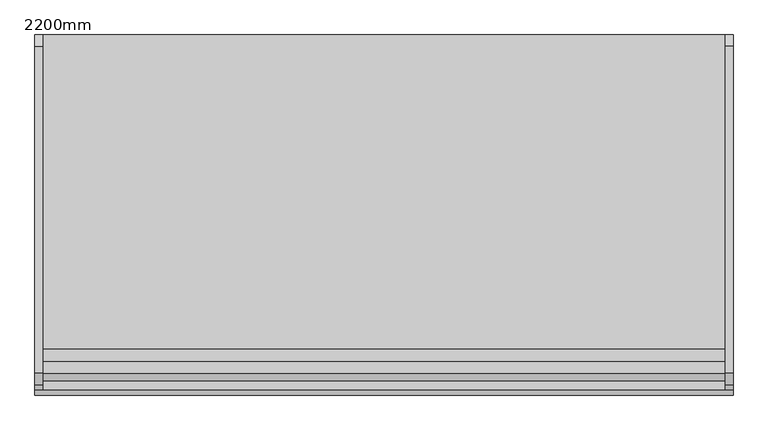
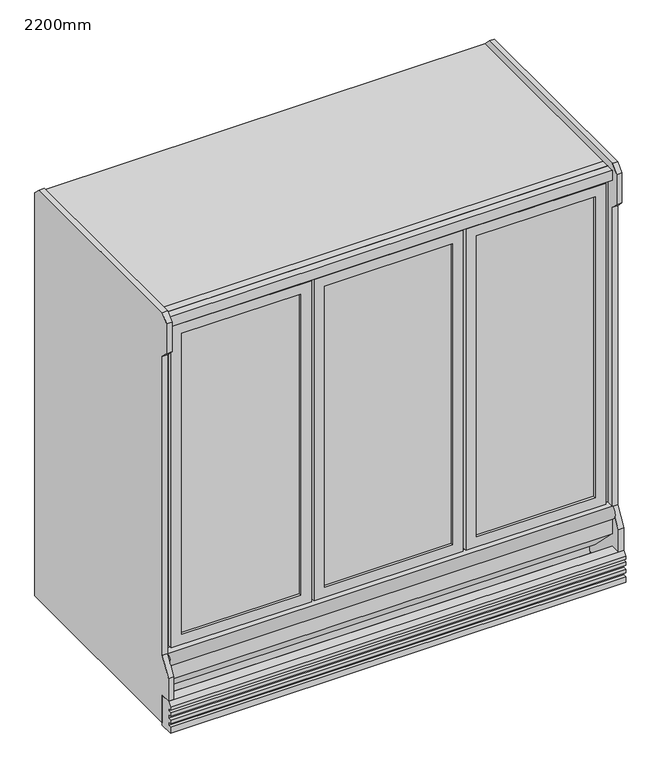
"""IFC4 building model written with IfcOpenShell, lengths in millimetres: proxy geometry, Congélateur - Vertical trois portes : 2200mm."""

from ifc_helpers import new_model, si_unit, point, frame, frame_2d, origin, origin_with_axes, place, context, project, spatial, polyline, circle_curve, trimmed, segment, composite_curve, outline, extrude, source, transform, mapped, element, save


def proxy_2200mm_2b634e71(model_context):
    return source(origin(), model_context, "Body", "SweptSolid", [
        extrude(outline(polyline([(901.7, 2032.0), (914.4, 2032.0), (914.4, 304.8), (901.7, 304.8), (901.7, 520.7), (795.3138575, 520.7), (776.2638575, 539.75), (402.1549695, 539.75), (393.2718086, 558.8), (901.7, 558.8), (901.7, 812.8), (790.5820534, 812.8), (771.5320534, 831.85), (402.1549695, 831.85), (393.2718086, 850.9), (901.7, 850.9), (901.7, 1104.9), (785.8502493, 1104.9), (766.8002493, 1123.95), (313.6831609, 1123.95), (304.8, 1143.0), (901.7, 1143.0), (901.7, 1397.0), (790.5820534, 1397.0), (771.5320534, 1416.05), (313.6831609, 1416.05), (304.8, 1435.1), (901.7, 1435.1), (901.7, 1689.1), (785.8502493, 1689.1), (766.8002493, 1708.15), (317.5, 1708.15), (304.8, 1727.2), (901.7, 1727.2), (901.7, 2032.0)])), frame((-1293.6395833, 0.0, 0.0), z_axis=(1.0, 0.0, 0.0), x_axis=(0.0, 1.0, 0.0)), (0.0, 0.0, 1.0), 12.7),
        extrude(outline(polyline([(-655.55625, 25.4), (-1230.1395833, 25.4), (-1230.1395833, 31.75), (-655.55625, 31.75), (-655.55625, 25.4)])), frame((0.0, 0.0, 419.1), z_axis=(0.0, 0.0, 1.0), x_axis=(1.0, 0.0, 0.0)), (0.0, 0.0, 1.0), 1536.7),
        extrude(outline(polyline([(2006.6, -1280.9395833), (368.3, -1280.9395833), (368.3, -604.75625), (2006.6, -604.75625), (2006.6, -1280.9395833)]), holes=[polyline([(1955.8, -1230.1395833), (1955.8, -655.55625), (419.1, -655.55625), (419.1, -1230.1395833), (1955.8, -1230.1395833)])]), frame((0.0, 12.7, 0.0), z_axis=(0.0, 1.0, 0.0), x_axis=(0.0, 0.0, 1.0)), (0.0, 0.0, 1.0), 25.4),
        extrude(outline(polyline([(-1344.4395833, 25.4), (-1963.4729167, 25.4), (-1963.4729167, 31.75), (-1344.4395833, 31.75), (-1344.4395833, 25.4)])), frame((0.0, 0.0, 419.1), z_axis=(0.0, 0.0, 1.0), x_axis=(1.0, 0.0, 0.0)), (0.0, 0.0, 1.0), 1536.7),
        extrude(outline(polyline([(2006.6, -2014.2729167), (368.3, -2014.2729167), (368.3, -1293.6395833), (2006.6, -1293.6395833), (2006.6, -2014.2729167)]), holes=[polyline([(1955.8, -1963.4729167), (1955.8, -1344.4395833), (419.1, -1344.4395833), (419.1, -1963.4729167), (1955.8, -1963.4729167)])]), frame((0.0, 12.7, 0.0), z_axis=(0.0, 1.0, 0.0), x_axis=(0.0, 0.0, 1.0)), (0.0, 0.0, 1.0), 25.4),
        extrude(outline(polyline([(-2077.7729167, 25.4), (-2652.35625, 25.4), (-2652.35625, 31.75), (-2077.7729167, 31.75), (-2077.7729167, 25.4)])), frame((0.0, 0.0, 419.1), z_axis=(0.0, 0.0, 1.0), x_axis=(1.0, 0.0, 0.0)), (0.0, 0.0, 1.0), 1536.7),
        extrude(outline(polyline([(2006.6, -2026.9729167), (2006.6, -2703.15625), (368.3, -2703.15625), (368.3, -2026.9729167), (2006.6, -2026.9729167)]), holes=[polyline([(1955.8, -2077.7729167), (419.1, -2077.7729167), (419.1, -2652.35625), (1955.8, -2652.35625), (1955.8, -2077.7729167)])]), frame((0.0, 12.7, 0.0), z_axis=(0.0, 1.0, 0.0), x_axis=(0.0, 0.0, 1.0)), (0.0, 0.0, 1.0), 25.4),
        extrude(outline(polyline([(2070.1, -579.35625), (2070.1, -2728.55625), (304.8, -2728.55625), (304.8, -579.35625), (2070.1, -579.35625)]), holes=[polyline([(1993.9, -2039.6729167), (381.0, -2039.6729167), (381.0, -2690.45625), (1993.9, -2690.45625), (1993.9, -2039.6729167)]), polyline([(1993.9, -1306.3395833), (381.0, -1306.3395833), (381.0, -2001.5729167), (1993.9, -2001.5729167), (1993.9, -1306.3395833)]), polyline([(381.0, -1268.2395833), (1993.9, -1268.2395833), (1993.9, -617.45625), (381.0, -617.45625), (381.0, -1268.2395833)])]), frame((0.0, 38.1, 0.0), z_axis=(0.0, 1.0, 0.0), x_axis=(0.0, 0.0, 1.0)), (0.0, 0.0, 1.0), 38.1),
        extrude(outline(composite_curve([segment(trimmed(circle_curve(frame_2d((9.5885861, 324.3228586)), 32.7139199), [point((0.0, 293.0457172))], [point((0.0, 355.6))], False, "CARTESIAN"), True, "CONTINUOUS"), segment(polyline([(0.0, 355.6), (0.0, 293.0457172)]), True, "CONTINUOUS")], self_intersect=False)), frame((-2728.55625, 0.0, 0.0), z_axis=(1.0, 0.0, 0.0), x_axis=(0.0, 1.0, 0.0)), (0.0, 0.0, 1.0), 2149.2),
        extrude(outline(polyline([(-50.8, 152.4), (0.0, 152.4), (0.0, 0.0), (-67.5825973, 0.0), (-67.5825973, 28.6219057), (-50.8, 28.6219057), (-50.8, 47.6719057), (-67.5825973, 47.6719057), (-67.5825973, 66.7219057), (-50.8, 66.7219057), (-50.8, 85.7719057), (-67.5825973, 85.7719057), (-67.5825973, 104.8219057), (-50.8, 104.8219057), (-50.8, 117.5219057), (-67.5825973, 117.5219057), (-67.5825973, 131.7872166), (-50.8, 152.4)])), frame((-2753.95625, 0.0, 0.0), z_axis=(1.0, 0.0, 0.0), x_axis=(0.0, 1.0, 0.0)), (0.0, 0.0, 1.0), 2200.0),
        extrude(outline(polyline([(1030.8789755, 2106.0210245), (1066.8, 2070.1), (1066.8, 12.7), (0.0, 12.7), (0.0, 152.4), (-50.8, 152.4), (-50.8, 267.611819), (0.0, 355.6), (0.0, 1881.7789755), (-35.9210245, 1917.7), (-35.9210245, 2070.1), (0.0, 2106.0210245), (1030.8789755, 2106.0210245)])), frame((-579.35625, 0.0, 0.0), z_axis=(1.0, 0.0, 0.0), x_axis=(0.0, 1.0, 0.0)), (0.0, 0.0, 1.0), 25.4),
        extrude(outline(polyline([(1030.8789755, 2106.0210245), (1066.8, 2070.1), (1066.8, 12.7), (0.0, 12.7), (0.0, 152.4), (-50.8, 152.4), (-50.8, 267.611819), (0.0, 355.6), (0.0, 1881.7789755), (-35.9210245, 1917.7), (-35.9210245, 2070.1), (0.0, 2106.0210245), (1030.8789755, 2106.0210245)])), frame((-2753.95625, 0.0, 0.0), z_axis=(1.0, 0.0, 0.0), x_axis=(0.0, 1.0, 0.0)), (0.0, 0.0, 1.0), 25.4),
        extrude(outline(polyline([(-2715.85625, 292.1), (-2715.85625, 901.7), (-592.05625, 901.7), (-592.05625, 292.1), (-2715.85625, 292.1)])), frame((0.0, 0.0, 1727.2), z_axis=(0.0, 0.0, 1.0), x_axis=(1.0, 0.0, 0.0)), (0.0, 0.0, 1.0), 9.525),
        extrude(outline(polyline([(-2715.85625, 292.1), (-2715.85625, 901.7), (-592.05625, 901.7), (-592.05625, 292.1), (-2715.85625, 292.1)])), frame((0.0, 0.0, 1435.1), z_axis=(0.0, 0.0, 1.0), x_axis=(1.0, 0.0, 0.0)), (0.0, 0.0, 1.0), 9.525),
        extrude(outline(polyline([(-2715.85625, 292.1), (-2715.85625, 901.7), (-592.05625, 901.7), (-592.05625, 292.1), (-2715.85625, 292.1)])), frame((0.0, 0.0, 1143.0), z_axis=(0.0, 0.0, 1.0), x_axis=(1.0, 0.0, 0.0)), (0.0, 0.0, 1.0), 9.525),
        extrude(outline(polyline([(-2715.85625, 292.1), (-2715.85625, 901.7), (-592.05625, 901.7), (-592.05625, 292.1), (-2715.85625, 292.1)])), frame((0.0, 0.0, 850.9), z_axis=(0.0, 0.0, 1.0), x_axis=(1.0, 0.0, 0.0)), (0.0, 0.0, 1.0), 9.525),
        extrude(outline(polyline([(-2715.85625, 292.1), (-2715.85625, 901.7), (-592.05625, 901.7), (-592.05625, 292.1), (-2715.85625, 292.1)])), frame((0.0, 0.0, 558.8), z_axis=(0.0, 0.0, 1.0), x_axis=(1.0, 0.0, 0.0)), (0.0, 0.0, 1.0), 9.525),
        extrude(outline(polyline([(901.7, 2032.0), (914.4, 2032.0), (914.4, 304.8), (901.7, 304.8), (901.7, 520.7), (795.3138575, 520.7), (776.2638575, 539.75), (402.1549695, 539.75), (393.2718086, 558.8), (901.7, 558.8), (901.7, 812.8), (790.5820534, 812.8), (771.5320534, 831.85), (402.1549695, 831.85), (393.2718086, 850.9), (901.7, 850.9), (901.7, 1104.9), (785.8502493, 1104.9), (766.8002493, 1123.95), (313.6831609, 1123.95), (304.8, 1143.0), (901.7, 1143.0), (901.7, 1397.0), (790.5820534, 1397.0), (771.5320534, 1416.05), (313.6831609, 1416.05), (304.8, 1435.1), (901.7, 1435.1), (901.7, 1689.1), (785.8502493, 1689.1), (766.8002493, 1708.15), (317.5, 1708.15), (304.8, 1727.2), (901.7, 1727.2), (901.7, 2032.0)])), frame((-2026.8343463, 0.0, 0.0), z_axis=(1.0, 0.0, 0.0), x_axis=(0.0, 1.0, 0.0)), (0.0, 0.0, 1.0), 12.4228593),
        extrude(outline(polyline([(901.7, 2032.0), (914.4, 2032.0), (914.4, 304.8), (901.7, 304.8), (901.7, 520.7), (795.3138575, 520.7), (776.2638575, 539.75), (402.1549695, 539.75), (393.2718086, 558.8), (901.7, 558.8), (901.7, 812.8), (790.5820534, 812.8), (771.5320534, 831.85), (402.1549695, 831.85), (393.2718086, 850.9), (901.7, 850.9), (901.7, 1104.9), (785.8502493, 1104.9), (766.8002493, 1123.95), (313.6831609, 1123.95), (304.8, 1143.0), (901.7, 1143.0), (901.7, 1397.0), (790.5820534, 1397.0), (771.5320534, 1416.05), (313.6831609, 1416.05), (304.8, 1435.1), (901.7, 1435.1), (901.7, 1689.1), (785.8502493, 1689.1), (766.8002493, 1708.15), (317.5, 1708.15), (304.8, 1727.2), (901.7, 1727.2), (901.7, 2032.0)])), frame((-604.75625, 0.0, 0.0), z_axis=(1.0, 0.0, 0.0), x_axis=(0.0, 1.0, 0.0)), (0.0, 0.0, 1.0), 12.7),
        extrude(outline(polyline([(901.7, 2032.0), (914.4, 2032.0), (914.4, 304.8), (901.7, 304.8), (901.7, 520.7), (795.3138575, 520.7), (776.2638575, 539.75), (402.1549695, 539.75), (393.2718086, 558.8), (901.7, 558.8), (901.7, 812.8), (790.5820534, 812.8), (771.5320534, 831.85), (402.1549695, 831.85), (393.2718086, 850.9), (901.7, 850.9), (901.7, 1104.9), (785.8502493, 1104.9), (766.8002493, 1123.95), (313.6831609, 1123.95), (304.8, 1143.0), (901.7, 1143.0), (901.7, 1397.0), (790.5820534, 1397.0), (771.5320534, 1416.05), (313.6831609, 1416.05), (304.8, 1435.1), (901.7, 1435.1), (901.7, 1689.1), (785.8502493, 1689.1), (766.8002493, 1708.15), (317.5, 1708.15), (304.8, 1727.2), (901.7, 1727.2), (901.7, 2032.0)])), frame((-2715.85625, 0.0, 0.0), z_axis=(1.0, 0.0, 0.0), x_axis=(0.0, 1.0, 0.0)), (0.0, 0.0, 1.0), 12.7),
        extrude(outline(polyline([(0.0, 2070.1), (1066.8, 2070.1), (1066.8, 76.2), (140.3569315, 76.2), (0.0, 216.5569315), (0.0, 355.6), (38.1, 355.6), (38.1, 304.8), (914.4, 304.8), (914.4, 2032.0), (152.4, 2032.0), (152.4, 2019.3), (0.0, 2019.3), (0.0, 2070.1)])), frame((-2728.55625, 0.0, 0.0), z_axis=(1.0, 0.0, 0.0), x_axis=(0.0, 1.0, 0.0)), (0.0, 0.0, 1.0), 2149.2),
        extrude(outline(polyline([(-579.35625, 1047.75), (-579.35625, 190.5), (-2728.55625, 190.5), (-2728.55625, 1047.75), (-579.35625, 1047.75)])), origin_with_axes(), (0.0, 0.0, 1.0), 76.2),
    ])


if __name__ == "__main__":
    model = new_model("IFC4")
    model_context = context("Model", 3, world=origin())
    ifc_project = project(units=[si_unit("LENGTHUNIT", "METRE", prefix="MILLI")], contexts=[model_context])
    site = spatial("IfcSite", under=ifc_project)
    building = spatial("IfcBuilding", under=site)
    placement = place(None, origin())
    proxy_2200mm_shape = proxy_2200mm_2b634e71(model_context)
    element("IfcBuildingElementProxy", 1, Name="Congélateur - Vertical trois portes : 2200mm", ObjectType="Congélateur - Vertical trois portes : 2200mm", at=placement, inside=building, context=model_context, shape_type="MappedRepresentation", body=[
        mapped(proxy_2200mm_shape, transform((0.0, 0.0, 0.0), x_axis=(1.0, 0.0, 0.0), y_axis=(0.0, 1.0, 0.0), z_axis=(0.0, 0.0, 1.0))),
    ])
    save(model, "model.ifc")
